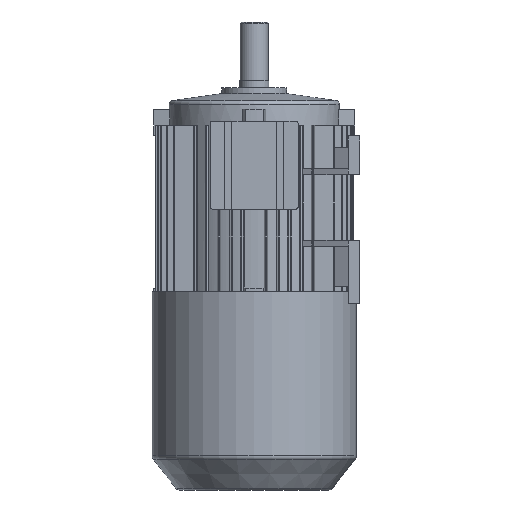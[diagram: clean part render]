
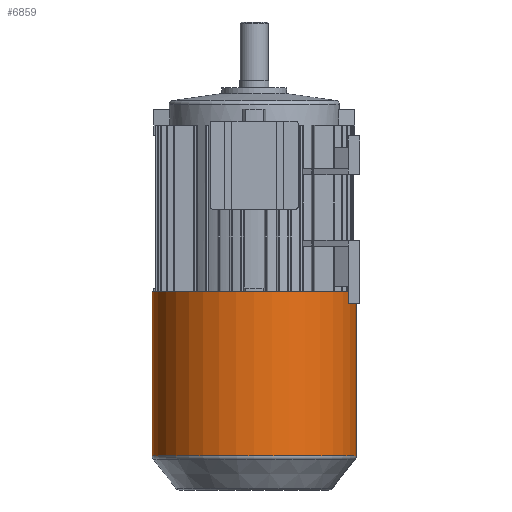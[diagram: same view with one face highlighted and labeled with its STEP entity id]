
A CAD part, left-side view. The second image highlights one B-rep face of the part: STEP entity #6859.
In plain terms, the highlighted cylindrical face has radius 87 mm (diameter 174 mm), a partial arc.
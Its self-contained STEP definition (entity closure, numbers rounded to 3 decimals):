
#304=CARTESIAN_POINT('',(0.,0.,-148.));
#305=DIRECTION('',(0.,0.,1.));
#306=DIRECTION('',(0.,1.,0.));
#307=AXIS2_PLACEMENT_3D('',#304,#305,#306);
#694=DIRECTION('',(0.,0.,1.));
#695=VECTOR('',#694,139.76);
#696=CARTESIAN_POINT('',(0.,87.,-287.76));
#697=LINE('',#696,#695);
#698=DIRECTION('',(0.,0.,1.));
#699=VECTOR('',#698,139.76);
#700=CARTESIAN_POINT('',(0.,-87.,-287.76));
#701=LINE('',#700,#699);
#702=CARTESIAN_POINT('',(0.,0.,-287.76));
#703=DIRECTION('',(0.,0.,1.));
#704=DIRECTION('',(0.,1.,0.));
#705=AXIS2_PLACEMENT_3D('',#702,#703,#704);
#5448=CARTESIAN_POINT('',(0.,87.,-148.));
#5449=CARTESIAN_POINT('',(0.,-87.,-148.));
#5450=VERTEX_POINT('',#5448);
#5451=VERTEX_POINT('',#5449);
#5452=CARTESIAN_POINT('',(0.,-87.,-287.76));
#5453=CARTESIAN_POINT('',(0.,87.,-287.76));
#5454=VERTEX_POINT('',#5452);
#5455=VERTEX_POINT('',#5453);
#6845=CARTESIAN_POINT('',(0.,0.,-139.55));
#6846=DIRECTION('',(0.,0.,-1.));
#6847=DIRECTION('',(0.,-1.,0.));
#6848=AXIS2_PLACEMENT_3D('',#6845,#6846,#6847);
#6849=CYLINDRICAL_SURFACE('',#6848,87.);
#6851=ORIENTED_EDGE('',*,*,#6850,.F.);
#6853=ORIENTED_EDGE('',*,*,#6852,.T.);
#6854=ORIENTED_EDGE('',*,*,#6526,.T.);
#6856=ORIENTED_EDGE('',*,*,#6855,.F.);
#6857=EDGE_LOOP('',(#6851,#6853,#6854,#6856));
#6858=FACE_OUTER_BOUND('',#6857,.F.);
#6859=ADVANCED_FACE('',(#6858),#6849,.T.);
#308=CIRCLE('',#307,87.);
#706=CIRCLE('',#705,87.);
#6526=EDGE_CURVE('',#5450,#5451,#308,.T.);
#6850=EDGE_CURVE('',#5455,#5454,#706,.T.);
#6852=EDGE_CURVE('',#5455,#5450,#697,.T.);
#6855=EDGE_CURVE('',#5454,#5451,#701,.T.);
